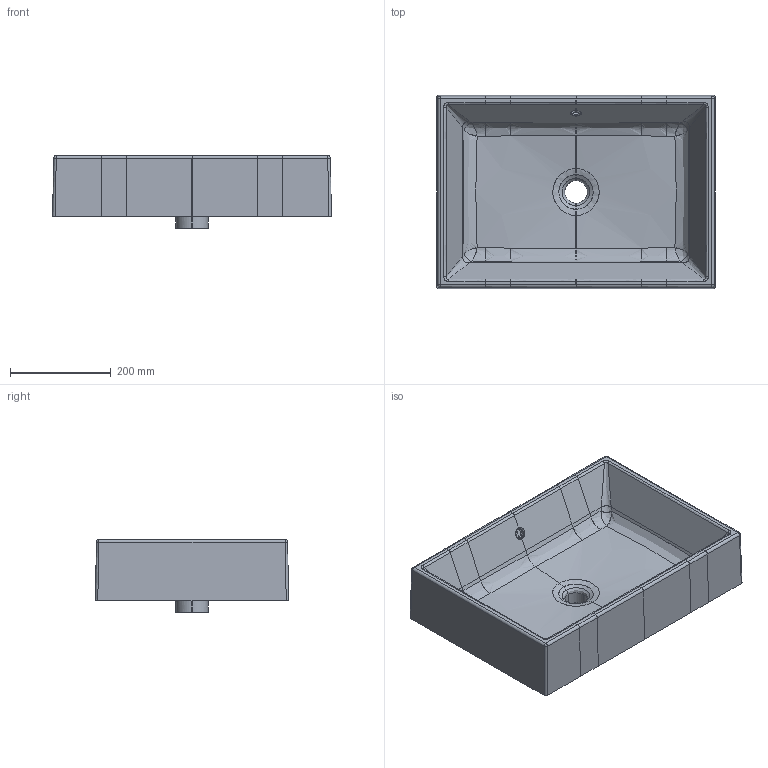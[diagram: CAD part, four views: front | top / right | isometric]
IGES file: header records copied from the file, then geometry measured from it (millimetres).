
Start section: START RECORD GO HERE.
Global section: file name: lavabo plus 55.igs; native system: IBM CATIA IGES - CATIA Version 5 Release 17 ; preprocessor: CATIA Version 5 Release 17 ; author: Luca; organization: PC-Luca; date: 20131019.113921; units: millimetre
Bounding box: 555.11 x 385.11 x 145 mm (x, y, z)
Surface area: 785666.3 mm2 (no closed solid volume)
Topology: 0 solids, 0 shells, 374 faces, 1722 edges, 1716 vertices
Faces by surface type: bspline 374
